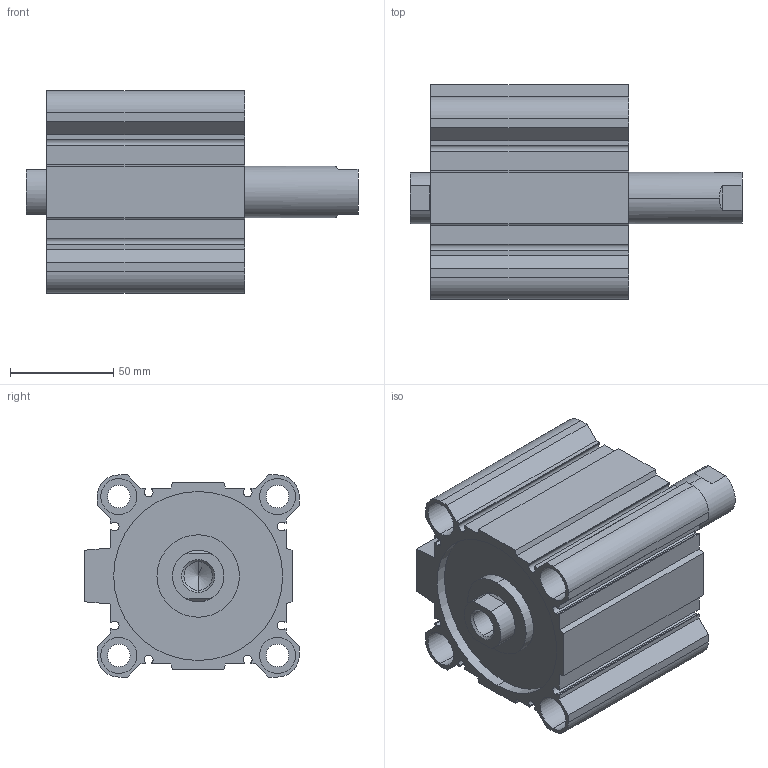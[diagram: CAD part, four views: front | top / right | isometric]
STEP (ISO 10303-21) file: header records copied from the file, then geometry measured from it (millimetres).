
FILE_DESCRIPTION (( 'STEP AP203' ), '1' );
FILE_NAME ('CCMB80-45F-P.STEP', '2020-08-05T11:50:35', ( '' ), ( '' ), 'SwSTEP 2.0', 'SolidWorks 2019', '' );
FILE_SCHEMA (( 'CONFIG_CONTROL_DESIGN' ));
Length unit declared in the file: millimetre
Products named in the file (1): CCMB80-45F-P
Bounding box: 161 x 104 x 98 mm (x, y, z)
Volume: 526563.3 mm3; surface area: 142464.6 mm2
Topology: 2 solids, 2 shells, 176 faces, 450 edges, 294 vertices
Faces by surface type: plane 90, cylinder 74, cone 12
Entity records: 5421 total; most frequent: DIRECTION 948, CARTESIAN_POINT 941, ORIENTED_EDGE 892, EDGE_CURVE 446, AXIS2_PLACEMENT_3D 333, VERTEX_POINT 294, LINE 282, VECTOR 282
